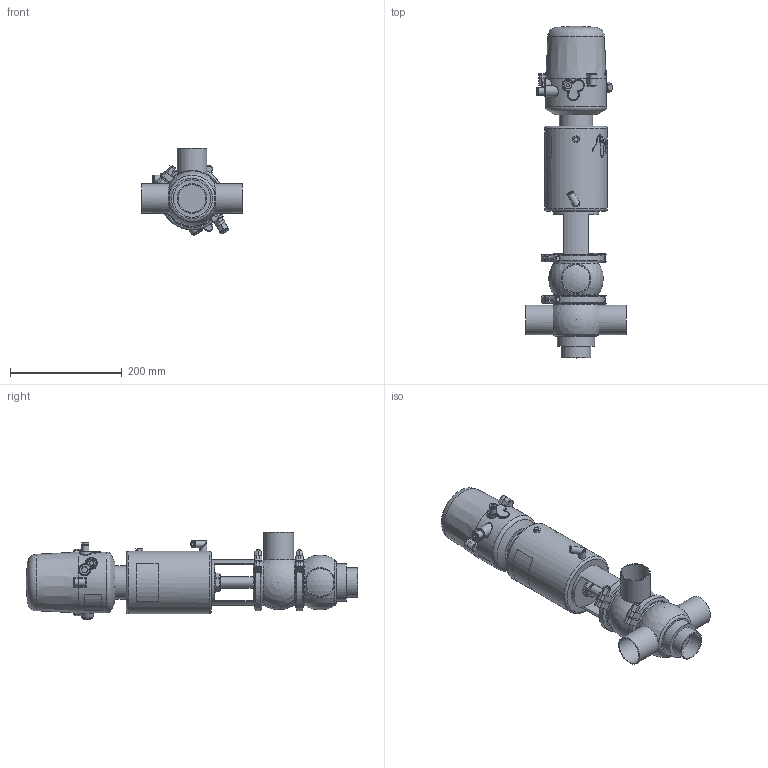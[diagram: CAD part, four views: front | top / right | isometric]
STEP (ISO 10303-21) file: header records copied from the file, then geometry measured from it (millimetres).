
FILE_DESCRIPTION (( 'STEP AP214' ), '1' );
FILE_NAME ('INNOVA K F W DIN 050 T2 AS NC & C-TOP S_10.240.16.0079.STEP', '2024-08-06T09:10:19', ( '' ), ( '' ), 'SwSTEP 2.0', 'SolidWorks 2023', '' );
FILE_SCHEMA (( 'AUTOMOTIVE_DESIGN' ));
Length unit declared in the file: millimetre
Products named in the file (8): 10.426.15.0001_C-TOP S - 1 EV; 10.240.15.0003_DIN 050; 10.240.15.0014_T2 AS P0; 10.240.15.0006_DIN 050; 10.240.15.0017_Estàndard; 10.240.15.0010_DN 050; INNOVA K F W DIN 050 T2 AS NC & C-TOP S_10.240.16.0079; 10.240.15.0001_DN 050
Assembly tree (8 placements, depth 2):
  INNOVA K F W DIN 050 T2 AS NC & C-TOP S_10.240.16.0079
    10.240.15.0006_DIN 050
    10.240.15.0003_DIN 050
    10.240.15.0010_DN 050
    10.240.15.0014_T2 AS P0
    10.240.15.0017_Estàndard
    10.426.15.0001_C-TOP S - 1 EV
    10.240.15.0001_DN 050  x2
Bounding box: 180 x 595 x 156.63 mm (x, y, z)
Volume: 4163720.3 mm3; surface area: 370798.4 mm2
Topology: 8 solids, 8 shells, 1176 faces, 2838 edges, 1889 vertices
Faces by surface type: plane 411, cylinder 358, cone 201, bspline 160, torus 37, sphere 9
Full cylindrical faces by diameter (mm): 0.371 x17, 0.512 x16, 0.658 x16, 0.795 x16, 0.94 x15, 1.098 x15, 1.241 x13, 1.382 x13, 1.523 x11, 1.669 x10, 2.201 x1, 4 x2, 5.5 x2, 6 x2, 6.15 x1, 8 x6, 8.5 x1, 10 x1, 10.5 x1, 11 x2, 12.5 x3, 13 x2, 13.5 x2, 16 x1, 17 x3, 20 x3, 20.5 x1, 22 x2, 31 x1, 34.5 x3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
Entity records: 58144 total; most frequent: CARTESIAN_POINT 27869, ORIENTED_EDGE 4522, DIRECTION 3665, EDGE_CURVE 2261, VERTEX_POINT 1610, EDGE_LOOP 1577, AXIS2_PLACEMENT_3D 1504, FACE_OUTER_BOUND 1337
